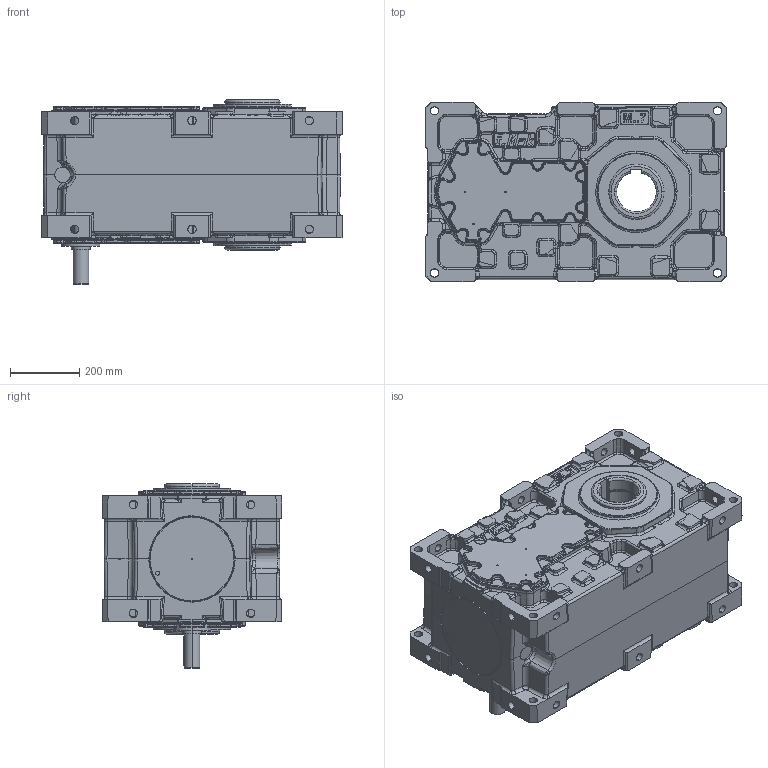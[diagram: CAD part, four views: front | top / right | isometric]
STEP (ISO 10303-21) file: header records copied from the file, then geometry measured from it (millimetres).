
FILE_DESCRIPTION (( 'STEP AP203' ), '1' );
FILE_NAME ('MA 703-G00.step', '2025-02-28T14:50:49', ( '' ), ( '' ), 'SwSTEP 2.0', 'SolidWorks 2023', '' );
FILE_SCHEMA (( 'CONFIG_CONTROL_DESIGN' ));
Products named in the file (3): Gövde_M_70__M7; Giriş Mili_MA 703; MA 703-G00
Assembly tree (2 placements, depth 2):
  MA 703-G00
    Gövde_M_70__M7
    Giriş Mili_MA 703
Bounding box: 870 x 520 x 533.75 mm (x, y, z)
Volume: 143869760.7 mm3; surface area: 2607103.8 mm2
Topology: 2 solids, 2 shells, 3344 faces, 8367 edges, 4997 vertices
Faces by surface type: cylinder 1314, bspline 1068, plane 895, cone 55, torus 12
Entity records: 169414 total; most frequent: CARTESIAN_POINT 99052, ORIENTED_EDGE 16582, DIRECTION 11874, EDGE_CURVE 8291, VERTEX_POINT 4997, AXIS2_PLACEMENT_3D 4203, LINE 3468, VECTOR 3468
